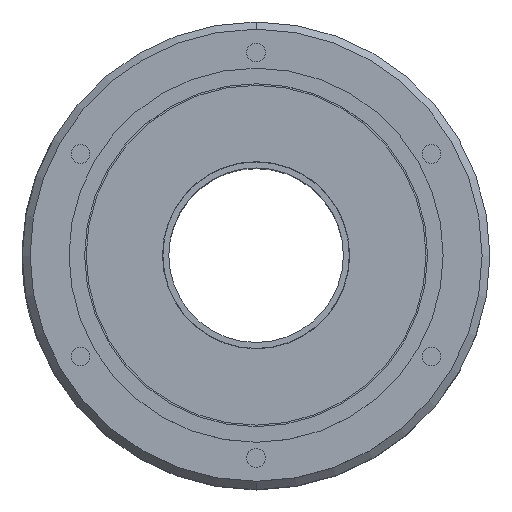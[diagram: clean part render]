
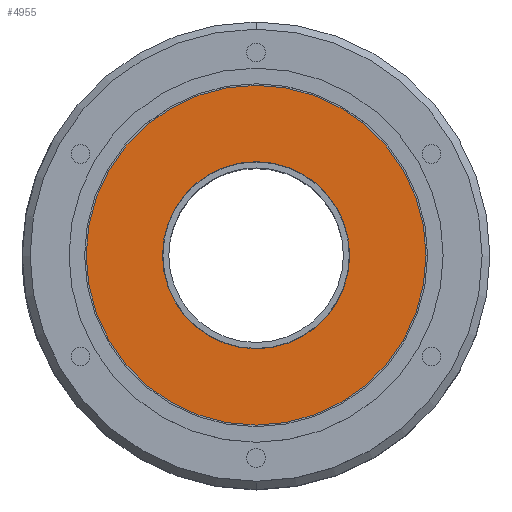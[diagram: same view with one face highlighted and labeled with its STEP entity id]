
A CAD part, top view. The second image highlights one B-rep face of the part: STEP entity #4955.
In plain terms, the highlighted planar face has unit normal (0, 0, 1).
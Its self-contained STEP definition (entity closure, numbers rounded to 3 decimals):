
#88 = VERTEX_POINT ( 'NONE', #1673 ) ;
#98 = VERTEX_POINT ( 'NONE', #1669 ) ;
#99 = EDGE_CURVE ( 'NONE', #98, #88, #1667, .T. ) ;
#129 = VERTEX_POINT ( 'NONE', #1796 ) ;
#131 = VERTEX_POINT ( 'NONE', #1808 ) ;
#132 = EDGE_CURVE ( 'NONE', #131, #129, #1788, .T. ) ;
#1667 = CIRCLE ( 'NONE', #1712, 30. ) ;
#1669 = CARTESIAN_POINT ( 'NONE',  ( -30., 0., 179. ) ) ;
#1673 = CARTESIAN_POINT ( 'NONE',  ( 30., 0., 179. ) ) ;
#1712 = AXIS2_PLACEMENT_3D ( 'NONE', #1727, #1726, #1725 ) ;
#1725 = DIRECTION ( 'NONE',  ( 1., 0., 0. ) ) ;
#1726 = DIRECTION ( 'NONE',  ( 0., 0., 1. ) ) ;
#1727 = CARTESIAN_POINT ( 'NONE',  ( 0., 0., 179. ) ) ;
#1784 = DIRECTION ( 'NONE',  ( 1., 0., 0. ) ) ;
#1785 = DIRECTION ( 'NONE',  ( 0., 0., 1. ) ) ;
#1786 = CARTESIAN_POINT ( 'NONE',  ( 0., 0., 179. ) ) ;
#1787 = AXIS2_PLACEMENT_3D ( 'NONE', #1786, #1785, #1784 ) ;
#1788 = CIRCLE ( 'NONE', #1787, 54.5 ) ;
#1796 = CARTESIAN_POINT ( 'NONE',  ( -54.5, 0., 179. ) ) ;
#1808 = CARTESIAN_POINT ( 'NONE',  ( 54.5, 0., 179. ) ) ;
#4189 = DIRECTION ( 'NONE',  ( 0., 0., 1. ) ) ;
#4190 = CARTESIAN_POINT ( 'NONE',  ( 0., 0., 179. ) ) ;
#4191 = AXIS2_PLACEMENT_3D ( 'NONE', #4190, #4189, #4251 ) ;
#4192 = CIRCLE ( 'NONE', #4191, 54.5 ) ;
#4193 = DIRECTION ( 'NONE',  ( 1., 0., 0. ) ) ;
#4194 = DIRECTION ( 'NONE',  ( 0., 0., 1. ) ) ;
#4195 = AXIS2_PLACEMENT_3D ( 'NONE', #4199, #4194, #4193 ) ;
#4196 = CIRCLE ( 'NONE', #4195, 30. ) ;
#4198 = CARTESIAN_POINT ( 'NONE',  ( 0., -28., 179. ) ) ;
#4199 = CARTESIAN_POINT ( 'NONE',  ( 0., 0., 179. ) ) ;
#4200 = DIRECTION ( 'NONE',  ( 0., -1., 0. ) ) ;
#4201 = DIRECTION ( 'NONE',  ( 0., 0., 1. ) ) ;
#4202 = FACE_BOUND ( 'NONE', #4952, .T. ) ;
#4205 = AXIS2_PLACEMENT_3D ( 'NONE', #4198, #4201, #4200 ) ;
#4209 = PLANE ( 'NONE',  #4205 ) ;
#4214 = FACE_OUTER_BOUND ( 'NONE', #4959, .T. ) ;
#4251 = DIRECTION ( 'NONE',  ( 1., 0., 0. ) ) ;
#4931 = ORIENTED_EDGE ( 'NONE', *, *, #4947, .F. ) ;
#4943 = ORIENTED_EDGE ( 'NONE', *, *, #132, .T. ) ;
#4947 = EDGE_CURVE ( 'NONE', #88, #98, #4196, .T. ) ;
#4950 = ORIENTED_EDGE ( 'NONE', *, *, #99, .F. ) ;
#4951 = ORIENTED_EDGE ( 'NONE', *, *, #4953, .T. ) ;
#4952 = EDGE_LOOP ( 'NONE', ( #4931, #4950 ) ) ;
#4953 = EDGE_CURVE ( 'NONE', #129, #131, #4192, .T. ) ;
#4955 = ADVANCED_FACE ( 'NONE', ( #4202, #4214 ), #4209, .T. ) ;
#4959 = EDGE_LOOP ( 'NONE', ( #4943, #4951 ) ) ;
